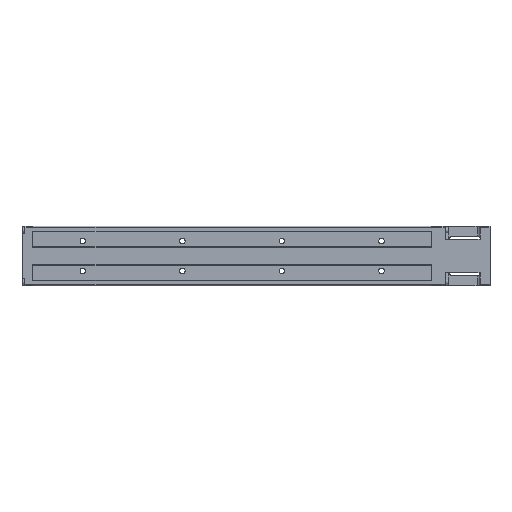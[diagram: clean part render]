
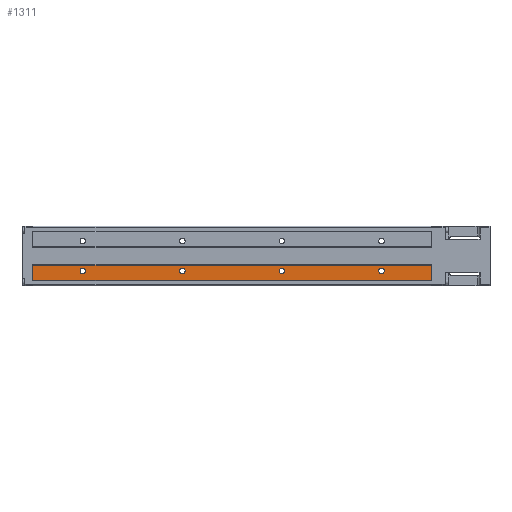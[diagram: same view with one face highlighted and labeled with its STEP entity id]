
A CAD part, front view. The second image highlights one B-rep face of the part: STEP entity #1311.
In plain terms, the highlighted planar face has unit normal (0, -1, 0).
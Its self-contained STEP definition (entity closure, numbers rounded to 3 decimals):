
#86 = CARTESIAN_POINT ( 'NONE',  ( 100., -23., -15. ) ) ;
#87 = FACE_BOUND ( 'NONE', #12925, .T. ) ;
#170 = CARTESIAN_POINT ( 'NONE',  ( 0., -23., -15. ) ) ;
#223 = CARTESIAN_POINT ( 'NONE',  ( 0., -23., -17.75 ) ) ;
#268 = VERTEX_POINT ( 'NONE', #7777 ) ;
#494 = FACE_BOUND ( 'NONE', #6642, .T. ) ;
#657 = CARTESIAN_POINT ( 'NONE',  ( 100., -23., -15. ) ) ;
#712 = EDGE_CURVE ( 'NONE', #9786, #5881, #5700, .T. ) ;
#1170 = EDGE_LOOP ( 'NONE', ( #16211, #1901 ) ) ;
#1311 = ADVANCED_FACE ( 'NONE', ( #7106, #5464, #87, #494, #13694 ), #1738, .T. ) ;
#1462 = CARTESIAN_POINT ( 'NONE',  ( -250., -23., -9.5 ) ) ;
#1548 = DIRECTION ( 'NONE',  ( 0., 1., 0. ) ) ;
#1608 = DIRECTION ( 'NONE',  ( 0., 0., -1. ) ) ;
#1611 = DIRECTION ( 'NONE',  ( 0., 0., 1. ) ) ;
#1738 = PLANE ( 'NONE',  #9406 ) ;
#1807 = ORIENTED_EDGE ( 'NONE', *, *, #5644, .F. ) ;
#1839 = DIRECTION ( 'NONE',  ( -1., 0., 0. ) ) ;
#1901 = ORIENTED_EDGE ( 'NONE', *, *, #15863, .T. ) ;
#1987 = EDGE_CURVE ( 'NONE', #15354, #10969, #12039, .T. ) ;
#2340 = VERTEX_POINT ( 'NONE', #5173 ) ;
#3324 = DIRECTION ( 'NONE',  ( 0., 1., 0. ) ) ;
#3436 = EDGE_CURVE ( 'NONE', #11470, #10969, #4970, .T. ) ;
#3510 = EDGE_LOOP ( 'NONE', ( #1807, #8572, #8578, #13111 ) ) ;
#3839 = CARTESIAN_POINT ( 'NONE',  ( 0., -23., -24.5 ) ) ;
#3865 = AXIS2_PLACEMENT_3D ( 'NONE', #14983, #14860, #13459 ) ;
#3911 = CARTESIAN_POINT ( 'NONE',  ( 150., -23., -9.5 ) ) ;
#4915 = DIRECTION ( 'NONE',  ( 0., 1., 0. ) ) ;
#4970 = LINE ( 'NONE', #6966, #5172 ) ;
#5172 = VECTOR ( 'NONE', #9559, 1000. ) ;
#5173 = CARTESIAN_POINT ( 'NONE',  ( 100., -23., -17.75 ) ) ;
#5371 = CARTESIAN_POINT ( 'NONE',  ( -100., -23., -12.25 ) ) ;
#5464 = FACE_BOUND ( 'NONE', #1170, .T. ) ;
#5515 = ORIENTED_EDGE ( 'NONE', *, *, #9087, .T. ) ;
#5644 = EDGE_CURVE ( 'NONE', #8732, #15354, #7569, .T. ) ;
#5700 = CIRCLE ( 'NONE', #14135, 2.75 ) ;
#5881 = VERTEX_POINT ( 'NONE', #16522 ) ;
#5927 = DIRECTION ( 'NONE',  ( 0., 1., 0. ) ) ;
#5993 = EDGE_CURVE ( 'NONE', #10099, #8598, #10050, .T. ) ;
#6312 = AXIS2_PLACEMENT_3D ( 'NONE', #7699, #4915, #15450 ) ;
#6443 = DIRECTION ( 'NONE',  ( 0., 0., -1. ) ) ;
#6471 = CIRCLE ( 'NONE', #16892, 2.75 ) ;
#6642 = EDGE_LOOP ( 'NONE', ( #16605, #9395 ) ) ;
#6721 = VERTEX_POINT ( 'NONE', #15523 ) ;
#6966 = CARTESIAN_POINT ( 'NONE',  ( 150., -23., -24.5 ) ) ;
#7106 = FACE_OUTER_BOUND ( 'NONE', #3510, .T. ) ;
#7131 = CARTESIAN_POINT ( 'NONE',  ( -100., -23., -17.75 ) ) ;
#7569 = LINE ( 'NONE', #16011, #10678 ) ;
#7699 = CARTESIAN_POINT ( 'NONE',  ( -200., -23., -15. ) ) ;
#7777 = CARTESIAN_POINT ( 'NONE',  ( -200., -23., -12.25 ) ) ;
#7859 = CARTESIAN_POINT ( 'NONE',  ( -200., -23., -17.75 ) ) ;
#8512 = DIRECTION ( 'NONE',  ( 0., 0., -1. ) ) ;
#8572 = ORIENTED_EDGE ( 'NONE', *, *, #15075, .T. ) ;
#8578 = ORIENTED_EDGE ( 'NONE', *, *, #3436, .T. ) ;
#8598 = VERTEX_POINT ( 'NONE', #5371 ) ;
#8732 = VERTEX_POINT ( 'NONE', #13628 ) ;
#8743 = CARTESIAN_POINT ( 'NONE',  ( 0., -23., -9.5 ) ) ;
#8762 = CARTESIAN_POINT ( 'NONE',  ( 0., -23., -15. ) ) ;
#9087 = EDGE_CURVE ( 'NONE', #2340, #6721, #10134, .T. ) ;
#9158 = DIRECTION ( 'NONE',  ( 0., 1., 0. ) ) ;
#9395 = ORIENTED_EDGE ( 'NONE', *, *, #11159, .T. ) ;
#9406 = AXIS2_PLACEMENT_3D ( 'NONE', #10971, #12406, #1839 ) ;
#9408 = DIRECTION ( 'NONE',  ( 0., 0., -1. ) ) ;
#9515 = CARTESIAN_POINT ( 'NONE',  ( -100., -23., -15. ) ) ;
#9559 = DIRECTION ( 'NONE',  ( 0., 0., 1. ) ) ;
#9786 = VERTEX_POINT ( 'NONE', #223 ) ;
#10050 = CIRCLE ( 'NONE', #16719, 2.75 ) ;
#10094 = DIRECTION ( 'NONE',  ( 0., 0., -1. ) ) ;
#10099 = VERTEX_POINT ( 'NONE', #7131 ) ;
#10134 = CIRCLE ( 'NONE', #11945, 2.75 ) ;
#10678 = VECTOR ( 'NONE', #1611, 1000. ) ;
#10969 = VERTEX_POINT ( 'NONE', #3911 ) ;
#10971 = CARTESIAN_POINT ( 'NONE',  ( 150., -23., -24.5 ) ) ;
#11107 = CARTESIAN_POINT ( 'NONE',  ( -100., -23., -15. ) ) ;
#11111 = EDGE_CURVE ( 'NONE', #8598, #10099, #12327, .T. ) ;
#11141 = VECTOR ( 'NONE', #14444, 1000. ) ;
#11159 = EDGE_CURVE ( 'NONE', #5881, #9786, #15622, .T. ) ;
#11275 = DIRECTION ( 'NONE',  ( 1., 0., 0. ) ) ;
#11468 = CARTESIAN_POINT ( 'NONE',  ( 150., -23., -24.5 ) ) ;
#11470 = VERTEX_POINT ( 'NONE', #11468 ) ;
#11564 = LINE ( 'NONE', #3839, #11141 ) ;
#11581 = ORIENTED_EDGE ( 'NONE', *, *, #11111, .T. ) ;
#11945 = AXIS2_PLACEMENT_3D ( 'NONE', #86, #9158, #6443 ) ;
#12039 = LINE ( 'NONE', #8743, #15725 ) ;
#12112 = DIRECTION ( 'NONE',  ( 0., 1., 0. ) ) ;
#12327 = CIRCLE ( 'NONE', #13401, 2.75 ) ;
#12406 = DIRECTION ( 'NONE',  ( 0., -1., 0. ) ) ;
#12925 = EDGE_LOOP ( 'NONE', ( #14583, #11581 ) ) ;
#13111 = ORIENTED_EDGE ( 'NONE', *, *, #1987, .F. ) ;
#13217 = EDGE_CURVE ( 'NONE', #6721, #2340, #6471, .T. ) ;
#13401 = AXIS2_PLACEMENT_3D ( 'NONE', #9515, #1548, #1608 ) ;
#13459 = DIRECTION ( 'NONE',  ( 0., 0., -1. ) ) ;
#13628 = CARTESIAN_POINT ( 'NONE',  ( -250., -23., -24.5 ) ) ;
#13694 = FACE_BOUND ( 'NONE', #15189, .T. ) ;
#14135 = AXIS2_PLACEMENT_3D ( 'NONE', #8762, #3324, #10094 ) ;
#14427 = AXIS2_PLACEMENT_3D ( 'NONE', #170, #12112, #9408 ) ;
#14444 = DIRECTION ( 'NONE',  ( 1., 0., 0. ) ) ;
#14583 = ORIENTED_EDGE ( 'NONE', *, *, #5993, .T. ) ;
#14860 = DIRECTION ( 'NONE',  ( 0., 1., 0. ) ) ;
#14983 = CARTESIAN_POINT ( 'NONE',  ( -200., -23., -15. ) ) ;
#15057 = EDGE_CURVE ( 'NONE', #16268, #268, #15482, .T. ) ;
#15075 = EDGE_CURVE ( 'NONE', #8732, #11470, #11564, .T. ) ;
#15189 = EDGE_LOOP ( 'NONE', ( #5515, #15208 ) ) ;
#15208 = ORIENTED_EDGE ( 'NONE', *, *, #13217, .T. ) ;
#15354 = VERTEX_POINT ( 'NONE', #1462 ) ;
#15450 = DIRECTION ( 'NONE',  ( 0., 0., -1. ) ) ;
#15482 = CIRCLE ( 'NONE', #6312, 2.75 ) ;
#15523 = CARTESIAN_POINT ( 'NONE',  ( 100., -23., -12.25 ) ) ;
#15622 = CIRCLE ( 'NONE', #14427, 2.75 ) ;
#15725 = VECTOR ( 'NONE', #11275, 1000. ) ;
#15863 = EDGE_CURVE ( 'NONE', #268, #16268, #16897, .T. ) ;
#16011 = CARTESIAN_POINT ( 'NONE',  ( -250., -23., -12.25 ) ) ;
#16211 = ORIENTED_EDGE ( 'NONE', *, *, #15057, .T. ) ;
#16238 = DIRECTION ( 'NONE',  ( 0., 1., 0. ) ) ;
#16268 = VERTEX_POINT ( 'NONE', #7859 ) ;
#16405 = DIRECTION ( 'NONE',  ( 0., 0., -1. ) ) ;
#16522 = CARTESIAN_POINT ( 'NONE',  ( 0., -23., -12.25 ) ) ;
#16605 = ORIENTED_EDGE ( 'NONE', *, *, #712, .T. ) ;
#16719 = AXIS2_PLACEMENT_3D ( 'NONE', #11107, #5927, #16405 ) ;
#16892 = AXIS2_PLACEMENT_3D ( 'NONE', #657, #16238, #8512 ) ;
#16897 = CIRCLE ( 'NONE', #3865, 2.75 ) ;
